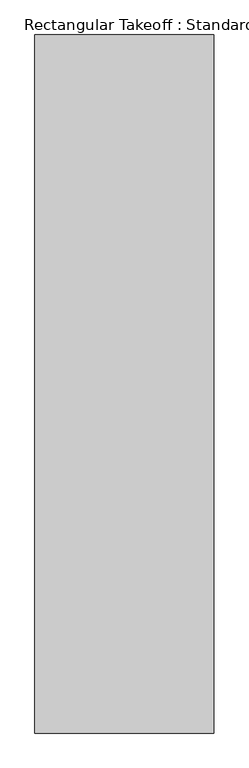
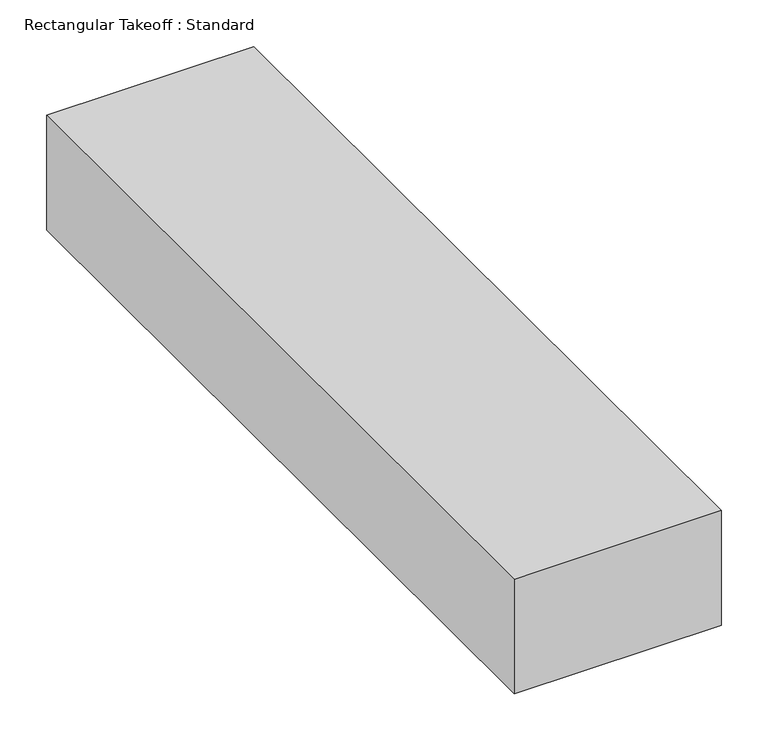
"""IFC4 building model written with IfcOpenShell, lengths in millimetres: duct fitting geometry, Rectangular Takeoff : Standard."""

from ifc_helpers import new_model, si_unit, frame, origin, place, context, project, spatial, polyline, outline, extrude, source, transform, mapped, element, save


def rectangular_takeoff_standard_90e0e4da(model_context):
    return source(origin(), model_context, "Body", "SweptSolid", [
        extrude(outline(polyline([(-6.096, -500.0), (-6.096, 500.0), (250.0, 500.0), (250.0, -500.0), (-6.096, -500.0)])), frame((0.0, 0.0, -75.0), z_axis=(0.0, 0.0, 1.0), x_axis=(1.0, 0.0, 0.0)), (0.0, 0.0, 1.0), 150.0),
    ])


if __name__ == "__main__":
    model = new_model("IFC4")
    model_context = context("Model", 3, world=origin())
    ifc_project = project(units=[si_unit("LENGTHUNIT", "METRE", prefix="MILLI")], contexts=[model_context])
    site = spatial("IfcSite", under=ifc_project)
    building = spatial("IfcBuilding", under=site)
    placement = place(None, origin())
    rectangular_takeoff_standard_shape = rectangular_takeoff_standard_90e0e4da(model_context)
    element("IfcDuctFitting", 1, ObjectType="Rectangular Takeoff : Standard", at=placement, inside=building, context=model_context, shape_type="MappedRepresentation", body=[
        mapped(rectangular_takeoff_standard_shape, transform((0.0, 0.0, 0.0), x_axis=(1.0, 0.0, 0.0), y_axis=(0.0, 1.0, 0.0), z_axis=(0.0, 0.0, 1.0))),
    ])
    save(model, "model.ifc")
